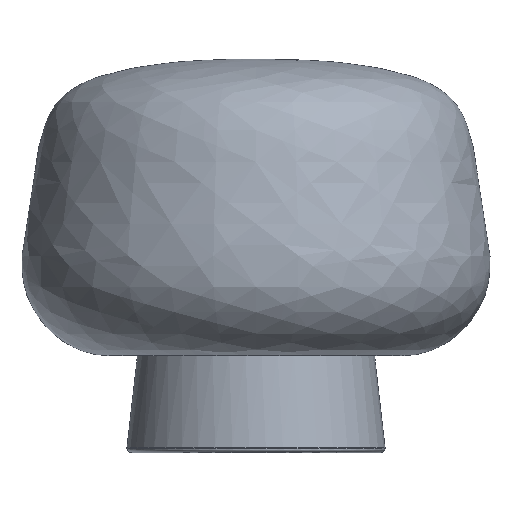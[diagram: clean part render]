
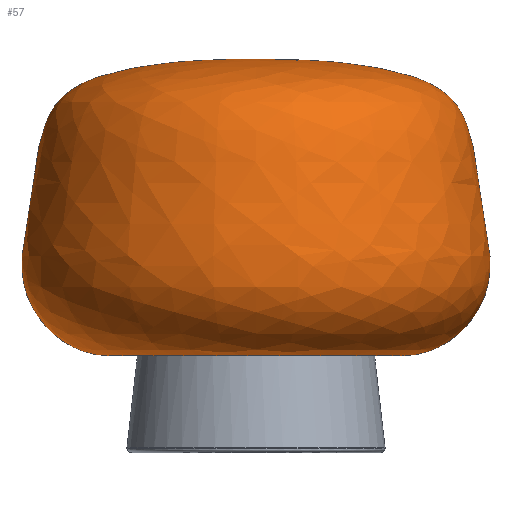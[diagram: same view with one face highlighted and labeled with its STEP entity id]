
A CAD part, front view. The second image highlights one B-rep face of the part: STEP entity #57.
In plain terms, the highlighted free-form (B-spline) face has degree [2, 3] with [5, 10] control points.
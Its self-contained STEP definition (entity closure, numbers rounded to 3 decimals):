
#57=ADVANCED_FACE('',(#86),#349,.T.);
#86=FACE_OUTER_BOUND('',#115,.T.);
#115=EDGE_LOOP('',(#203,#204,#205));
#203=ORIENTED_EDGE('',*,*,#256,.T.);
#204=ORIENTED_EDGE('',*,*,#249,.T.);
#205=ORIENTED_EDGE('',*,*,#255,.F.);
#249=EDGE_CURVE('',#331,#330,#306,.T.);
#255=EDGE_CURVE('',#335,#330,#308,.T.);
#256=EDGE_CURVE('',#335,#331,#293,.T.);
#293=(
BOUNDED_CURVE()
B_SPLINE_CURVE(2,(#1117,#1118,#1119,#1120,#1121),.UNSPECIFIED.,.F.,.F.)
B_SPLINE_CURVE_WITH_KNOTS((3,2,3),(50.265,75.398,100.531),
 .UNSPECIFIED.)
CURVE()
GEOMETRIC_REPRESENTATION_ITEM()
RATIONAL_B_SPLINE_CURVE((1.,0.707,1.,0.707,1.))
REPRESENTATION_ITEM('')
);
#306=B_SPLINE_CURVE_WITH_KNOTS('',3,(#1077,#1078,#1079,#1080,#1081,#1082,
#1083,#1084,#1085,#1086),.UNSPECIFIED.,.F.,.F.,(4,1,1,1,1,1,1,4),(0.,
6.395,12.355,19.243,26.151,33.054,
42.295,55.534),.UNSPECIFIED.);
#308=B_SPLINE_CURVE_WITH_KNOTS('',3,(#1107,#1108,#1109,#1110,#1111,#1112,
#1113,#1114,#1115,#1116),.UNSPECIFIED.,.F.,.F.,(4,1,1,1,1,1,1,4),(0.,
6.395,12.355,19.243,26.151,33.054,
42.295,55.534),.UNSPECIFIED.);
#330=VERTEX_POINT('',#1063);
#331=VERTEX_POINT('',#1064);
#335=VERTEX_POINT('',#1068);
#349=(
BOUNDED_SURFACE()
B_SPLINE_SURFACE(2,3,((#967,#968,#969,#970,#971,#972,#973,#974,#975,#976),
(#977,#978,#979,#980,#981,#982,#983,#984,#985,#986),(#987,#988,#989,#990,
#991,#992,#993,#994,#995,#996),(#997,#998,#999,#1000,#1001,#1002,#1003,
#1004,#1005,#1006),(#1007,#1008,#1009,#1010,#1011,#1012,#1013,#1014,#1015,
#1016)),.UNSPECIFIED.,.F.,.F.,.F.)
B_SPLINE_SURFACE_WITH_KNOTS((3,2,3),(4,1,1,1,1,1,1,4),(79.416,
119.123,158.831),(0.,6.395,
12.355,19.243,26.151,33.054,42.295,
55.534),.UNSPECIFIED.)
GEOMETRIC_REPRESENTATION_ITEM()
RATIONAL_B_SPLINE_SURFACE(((1.,1.,1.,1.,1.,1.,1.,1.,1.,1.),(0.707,
0.707,0.707,0.707,0.707,
0.707,0.707,0.707,0.707,
0.707),(1.,1.,1.,1.,1.,1.,1.,1.,1.,1.),(0.707,0.707,
0.707,0.707,0.707,0.707,
0.707,0.707,0.707,0.707),
(1.,1.,1.,1.,1.,1.,1.,1.,1.,1.)))
REPRESENTATION_ITEM('')
SURFACE()
);
#967=CARTESIAN_POINT('',(-16.,0.,10.5));
#968=CARTESIAN_POINT('',(-18.211,0.,10.5));
#969=CARTESIAN_POINT('',(-22.233,0.,12.32));
#970=CARTESIAN_POINT('',(-25.803,0.,18.036));
#971=CARTESIAN_POINT('',(-24.899,0.,24.866));
#972=CARTESIAN_POINT('',(-23.847,0.,31.262));
#973=CARTESIAN_POINT('',(-22.168,0.,39.449));
#974=CARTESIAN_POINT('',(-10.986,0.,42.376));
#975=CARTESIAN_POINT('',(-4.388,0.,42.5));
#976=CARTESIAN_POINT('',(0.,0.,42.5));
#977=CARTESIAN_POINT('',(-16.,-16.,10.5));
#978=CARTESIAN_POINT('',(-18.211,-18.211,10.5));
#979=CARTESIAN_POINT('',(-22.233,-22.233,12.32));
#980=CARTESIAN_POINT('',(-25.803,-25.803,18.036));
#981=CARTESIAN_POINT('',(-24.899,-24.899,24.866));
#982=CARTESIAN_POINT('',(-23.847,-23.847,31.262));
#983=CARTESIAN_POINT('',(-22.168,-22.168,39.449));
#984=CARTESIAN_POINT('',(-10.986,-10.986,42.376));
#985=CARTESIAN_POINT('',(-4.388,-4.388,42.5));
#986=CARTESIAN_POINT('',(0.,0.,42.5));
#987=CARTESIAN_POINT('',(0.,-16.,10.5));
#988=CARTESIAN_POINT('',(0.,-18.211,10.5));
#989=CARTESIAN_POINT('',(0.,-22.233,12.32));
#990=CARTESIAN_POINT('',(0.,-25.803,18.036));
#991=CARTESIAN_POINT('',(0.,-24.899,24.866));
#992=CARTESIAN_POINT('',(0.,-23.847,31.262));
#993=CARTESIAN_POINT('',(0.,-22.168,39.449));
#994=CARTESIAN_POINT('',(0.,-10.986,42.376));
#995=CARTESIAN_POINT('',(0.,-4.388,42.5));
#996=CARTESIAN_POINT('',(0.,0.,42.5));
#997=CARTESIAN_POINT('',(16.,-16.,10.5));
#998=CARTESIAN_POINT('',(18.211,-18.211,10.5));
#999=CARTESIAN_POINT('',(22.233,-22.233,12.32));
#1000=CARTESIAN_POINT('',(25.803,-25.803,18.036));
#1001=CARTESIAN_POINT('',(24.899,-24.899,24.866));
#1002=CARTESIAN_POINT('',(23.847,-23.847,31.262));
#1003=CARTESIAN_POINT('',(22.168,-22.168,39.449));
#1004=CARTESIAN_POINT('',(10.986,-10.986,42.376));
#1005=CARTESIAN_POINT('',(4.388,-4.388,42.5));
#1006=CARTESIAN_POINT('',(0.,0.,42.5));
#1007=CARTESIAN_POINT('',(16.,0.,10.5));
#1008=CARTESIAN_POINT('',(18.211,0.,10.5));
#1009=CARTESIAN_POINT('',(22.233,0.,12.32));
#1010=CARTESIAN_POINT('',(25.803,0.,18.036));
#1011=CARTESIAN_POINT('',(24.899,0.,24.866));
#1012=CARTESIAN_POINT('',(23.847,0.,31.262));
#1013=CARTESIAN_POINT('',(22.168,0.,39.449));
#1014=CARTESIAN_POINT('',(10.986,0.,42.376));
#1015=CARTESIAN_POINT('',(4.388,0.,42.5));
#1016=CARTESIAN_POINT('',(0.,0.,42.5));
#1063=CARTESIAN_POINT('',(0.,0.,42.5));
#1064=CARTESIAN_POINT('',(16.,0.,10.5));
#1068=CARTESIAN_POINT('',(-16.,0.,10.5));
#1077=CARTESIAN_POINT('',(16.,0.,10.5));
#1078=CARTESIAN_POINT('',(18.211,0.,10.5));
#1079=CARTESIAN_POINT('',(22.233,0.,12.32));
#1080=CARTESIAN_POINT('',(25.803,0.,18.036));
#1081=CARTESIAN_POINT('',(24.899,0.,24.866));
#1082=CARTESIAN_POINT('',(23.847,0.,31.262));
#1083=CARTESIAN_POINT('',(22.168,0.,39.449));
#1084=CARTESIAN_POINT('',(10.986,0.,42.376));
#1085=CARTESIAN_POINT('',(4.388,0.,42.5));
#1086=CARTESIAN_POINT('',(0.,0.,42.5));
#1107=CARTESIAN_POINT('',(-16.,0.,10.5));
#1108=CARTESIAN_POINT('',(-18.211,0.,10.5));
#1109=CARTESIAN_POINT('',(-22.233,0.,12.32));
#1110=CARTESIAN_POINT('',(-25.803,0.,18.036));
#1111=CARTESIAN_POINT('',(-24.899,0.,24.866));
#1112=CARTESIAN_POINT('',(-23.847,0.,31.262));
#1113=CARTESIAN_POINT('',(-22.168,0.,39.449));
#1114=CARTESIAN_POINT('',(-10.986,0.,42.376));
#1115=CARTESIAN_POINT('',(-4.388,0.,42.5));
#1116=CARTESIAN_POINT('',(0.,0.,42.5));
#1117=CARTESIAN_POINT('',(-16.,0.,10.5));
#1118=CARTESIAN_POINT('',(-16.,-16.,10.5));
#1119=CARTESIAN_POINT('',(0.,-16.,10.5));
#1120=CARTESIAN_POINT('',(16.,-16.,10.5));
#1121=CARTESIAN_POINT('',(16.,0.,10.5));
